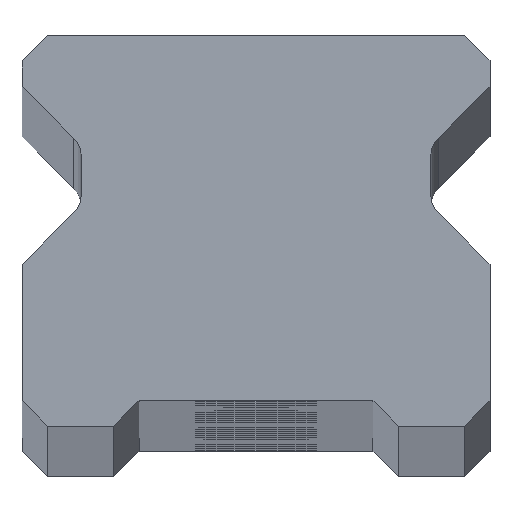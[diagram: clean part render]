
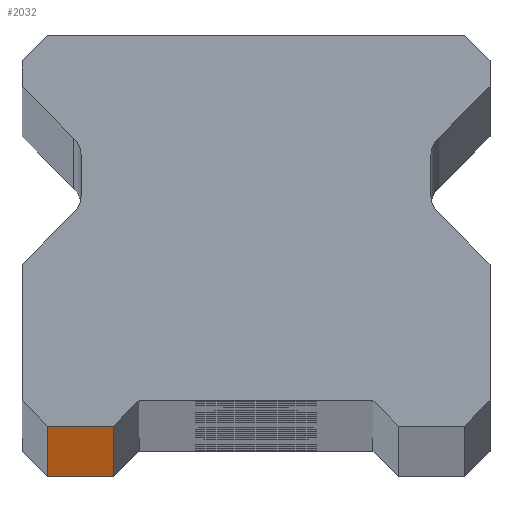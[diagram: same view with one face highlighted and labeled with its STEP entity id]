
A CAD part, top view. The second image highlights one B-rep face of the part: STEP entity #2032.
In plain terms, the highlighted planar face has unit normal (0, -1, 0).
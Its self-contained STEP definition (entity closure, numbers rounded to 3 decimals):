
#61 = DIRECTION ( 'NONE',  ( 1., 0., 0. ) ) ;
#353 = VERTEX_POINT ( 'NONE', #3549 ) ;
#429 = LINE ( 'NONE', #1059, #2693 ) ;
#557 = FACE_OUTER_BOUND ( 'NONE', #2489, .T. ) ;
#749 = PLANE ( 'NONE',  #4429 ) ;
#870 = CARTESIAN_POINT ( 'NONE',  ( 11.5, 0., -710. ) ) ;
#1059 = CARTESIAN_POINT ( 'NONE',  ( -7., 0., -710. ) ) ;
#1242 = VERTEX_POINT ( 'NONE', #2633 ) ;
#1468 = VECTOR ( 'NONE', #1800, 1000. ) ;
#1543 = DIRECTION ( 'NONE',  ( -1., 0., 0. ) ) ;
#1755 = EDGE_CURVE ( 'NONE', #353, #1242, #5314, .T. ) ;
#1800 = DIRECTION ( 'NONE',  ( 0., 0., -1. ) ) ;
#1820 = VECTOR ( 'NONE', #4286, 1000. ) ;
#1958 = CARTESIAN_POINT ( 'NONE',  ( 11.5, 0., 710. ) ) ;
#2032 = ADVANCED_FACE ( 'NONE', ( #557 ), #749, .F. ) ;
#2258 = DIRECTION ( 'NONE',  ( 0., 0., 1. ) ) ;
#2411 = EDGE_CURVE ( 'NONE', #2801, #353, #3655, .T. ) ;
#2435 = DIRECTION ( 'NONE',  ( 0., 1., 0. ) ) ;
#2489 = EDGE_LOOP ( 'NONE', ( #3063, #3319, #3246, #4533 ) ) ;
#2552 = CARTESIAN_POINT ( 'NONE',  ( -10.25, 0., 710. ) ) ;
#2633 = CARTESIAN_POINT ( 'NONE',  ( -7., 0., -710. ) ) ;
#2662 = CARTESIAN_POINT ( 'NONE',  ( 11.5, 0., 710. ) ) ;
#2693 = VECTOR ( 'NONE', #2258, 1000. ) ;
#2801 = VERTEX_POINT ( 'NONE', #2552 ) ;
#2922 = LINE ( 'NONE', #2662, #1820 ) ;
#3040 = EDGE_CURVE ( 'NONE', #1242, #4211, #429, .T. ) ;
#3063 = ORIENTED_EDGE ( 'NONE', *, *, #1755, .T. ) ;
#3159 = VECTOR ( 'NONE', #61, 1000. ) ;
#3246 = ORIENTED_EDGE ( 'NONE', *, *, #4895, .F. ) ;
#3319 = ORIENTED_EDGE ( 'NONE', *, *, #3040, .T. ) ;
#3549 = CARTESIAN_POINT ( 'NONE',  ( -10.25, 0., -710. ) ) ;
#3655 = LINE ( 'NONE', #5143, #1468 ) ;
#4211 = VERTEX_POINT ( 'NONE', #4952 ) ;
#4286 = DIRECTION ( 'NONE',  ( 1., 0., 0. ) ) ;
#4429 = AXIS2_PLACEMENT_3D ( 'NONE', #1958, #2435, #1543 ) ;
#4533 = ORIENTED_EDGE ( 'NONE', *, *, #2411, .T. ) ;
#4895 = EDGE_CURVE ( 'NONE', #2801, #4211, #2922, .T. ) ;
#4952 = CARTESIAN_POINT ( 'NONE',  ( -7., 0., 710. ) ) ;
#5143 = CARTESIAN_POINT ( 'NONE',  ( -10.25, 0., 710. ) ) ;
#5314 = LINE ( 'NONE', #870, #3159 ) ;
